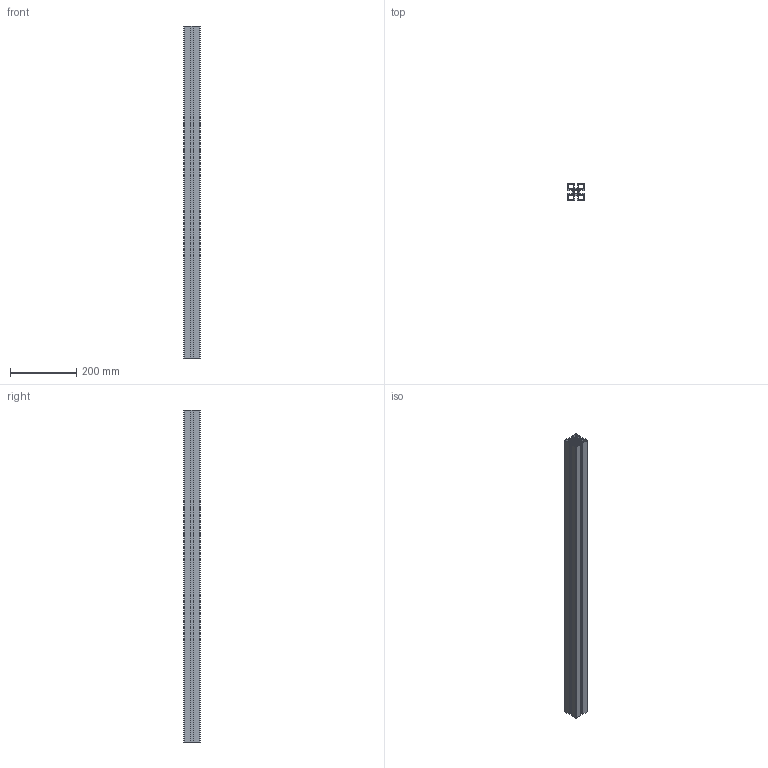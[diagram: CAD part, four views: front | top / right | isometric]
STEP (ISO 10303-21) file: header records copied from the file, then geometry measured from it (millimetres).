
FILE_DESCRIPTION(/* description */ (''),/* implementation_level */ '2;1');
FILE_NAME(/* name */ 'C:\Users\AMS43\Documents\Inventor\AMS\misumi\\X2\30D530EC30FC30E0\X0\_ipt\フレーム_stp\AFS-5050-8.ipt.stp',/* time_stamp */ '2016-10-06T11:44:32+09:00',/* author */ ('AMS43'),/* organization */ (''),/* preprocessor_version */ 'ST-DEVELOPER v15.2',/* originating_system */ 'Autodesk Inventor 2014',/* authorisation */ '');
FILE_SCHEMA (('AUTOMOTIVE_DESIGN { 1 0 10303 214 3 1 1 }'));
Length unit declared in the file: metre
Products named in the file (1): AFS-5050-8
Bounding box: 50 x 50 x 1000 mm (x, y, z)
Volume: 811771 mm3; surface area: 674516.7 mm2
Topology: 1 solids, 1 shells, 146 faces, 432 edges, 288 vertices
Faces by surface type: plane 86, cylinder 60
Entity records: 4947 total; most frequent: CARTESIAN_POINT 867, ORIENTED_EDGE 864, DIRECTION 846, EDGE_CURVE 432, LINE 312, VECTOR 312, VERTEX_POINT 288, AXIS2_PLACEMENT_3D 267
